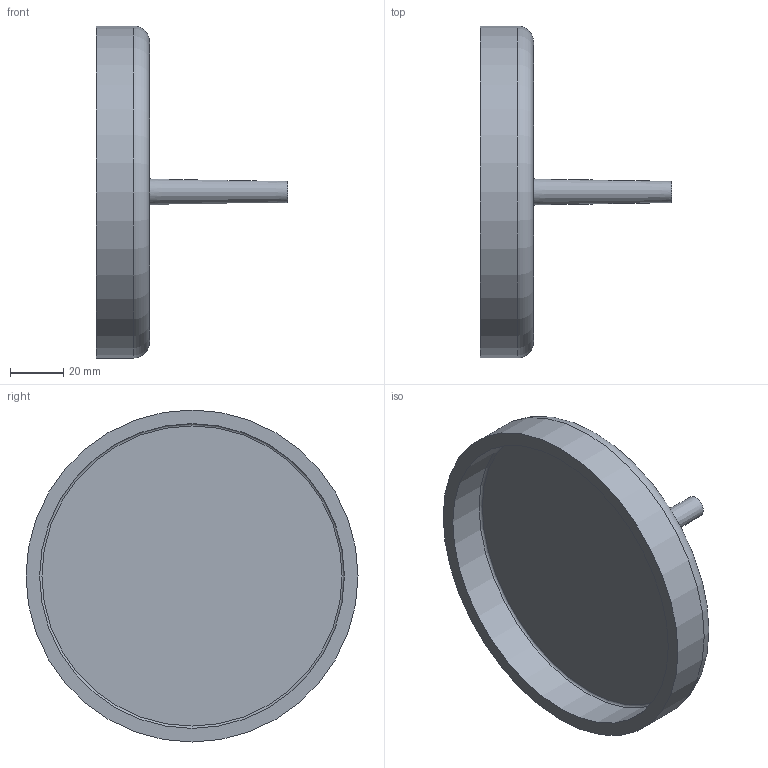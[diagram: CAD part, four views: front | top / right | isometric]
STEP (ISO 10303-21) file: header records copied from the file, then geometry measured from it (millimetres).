
FILE_DESCRIPTION(/* description */ (''),/* implementation_level */ '2;1');
FILE_NAME(/* name */ 'Z:\Geberit\Export\NewStep\Abschlussdeckel_Ipart\stp\368812.stp',/* time_stamp */ '2014-04-03T17:37:10+02:00',/* author */ ('Bründl'),/* organization */ (''),/* preprocessor_version */ 'ST-DEVELOPER v15.2',/* originating_system */ 'Autodesk Inventor 2014',/* authorisation */ '');
FILE_SCHEMA (('AUTOMOTIVE_DESIGN { 1 0 10303 214 3 1 1 }'));
Length unit declared in the file: millimetre
Products named in the file (1): 368812
Bounding box: 72 x 125 x 125 mm (x, y, z)
Volume: 92022.8 mm3; surface area: 38025.6 mm2
Topology: 1 solids, 1 shells, 9 faces, 13 edges, 8 vertices
Faces by surface type: plane 4, cylinder 2, torus 2, cone 1
Full cylindrical faces by diameter (mm): 114.74 x1, 125 x1
Entity records: 204 total; most frequent: DIRECTION 36, CARTESIAN_POINT 26, AXIS2_PLACEMENT_3D 18, EDGE_LOOP 16, ORIENTED_EDGE 16, STYLED_ITEM 10, ADVANCED_FACE 9, FACE_BOUND 8
